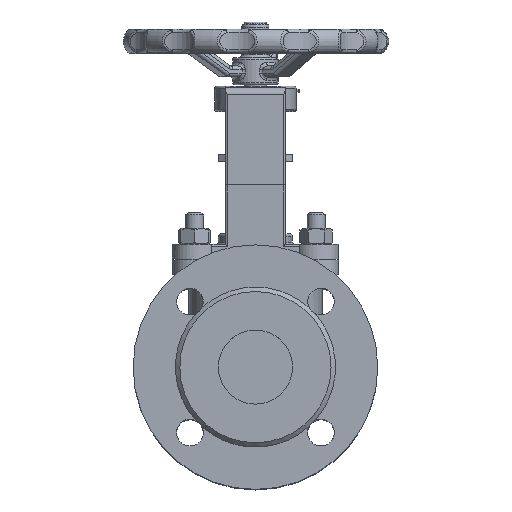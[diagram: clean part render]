
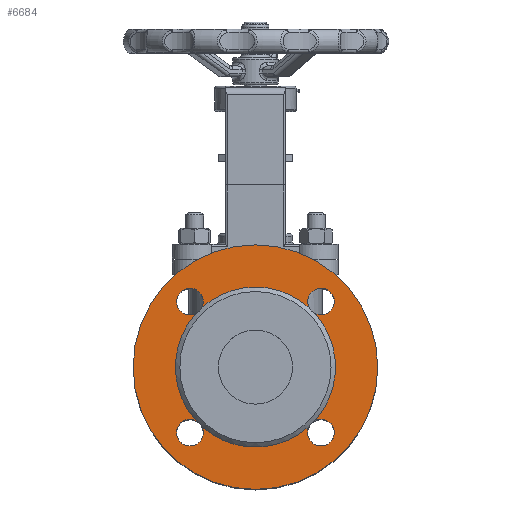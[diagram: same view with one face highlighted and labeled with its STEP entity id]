
A CAD part, top view. The second image highlights one B-rep face of the part: STEP entity #6684.
In plain terms, the highlighted planar face has unit normal (0, 0, 1).
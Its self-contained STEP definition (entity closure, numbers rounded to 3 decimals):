
#6684=ADVANCED_FACE('',(#14730,#14732),#14734,.F.);
#14730=FACE_BOUND('',#14731,.T.);
#14731=EDGE_LOOP('',(#21715));
#14732=FACE_BOUND('',#14733,.T.);
#14733=EDGE_LOOP('',(#21716,#21717,#21718,#21719,#21720,#21721,#21722,#21723,#21724,
#21725,#21726,#21727,#21728));
#14734=PLANE('',#14735);
#14735=AXIS2_PLACEMENT_3D('',#14736,#14737,#14738);
#14736=CARTESIAN_POINT('',(0.,0.,112.));
#14737=DIRECTION('',(0.,0.,-1.));
#14738=DIRECTION('',(0.,1.,0.));
#21715=ORIENTED_EDGE('',*,*,#24599,.T.);
#21716=ORIENTED_EDGE('',*,*,#24602,.T.);
#21717=ORIENTED_EDGE('',*,*,#24866,.F.);
#21718=ORIENTED_EDGE('',*,*,#24609,.T.);
#21719=ORIENTED_EDGE('',*,*,#24611,.T.);
#21720=ORIENTED_EDGE('',*,*,#24867,.F.);
#21721=ORIENTED_EDGE('',*,*,#24604,.T.);
#21722=ORIENTED_EDGE('',*,*,#24603,.T.);
#21723=ORIENTED_EDGE('',*,*,#24868,.F.);
#21724=ORIENTED_EDGE('',*,*,#24869,.F.);
#21725=ORIENTED_EDGE('',*,*,#24607,.T.);
#21726=ORIENTED_EDGE('',*,*,#24606,.T.);
#21727=ORIENTED_EDGE('',*,*,#24870,.F.);
#21728=ORIENTED_EDGE('',*,*,#24600,.T.);
#24599=EDGE_CURVE('',#28222,#28222,#28223,.T.);
#24600=EDGE_CURVE('',#28224,#28225,#28226,.T.);
#24602=EDGE_CURVE('',#28225,#28227,#28229,.T.);
#24603=EDGE_CURVE('',#28230,#28231,#28232,.T.);
#24604=EDGE_CURVE('',#28233,#28230,#28234,.T.);
#24606=EDGE_CURVE('',#28236,#28237,#28238,.T.);
#24607=EDGE_CURVE('',#28239,#28236,#28240,.T.);
#24609=EDGE_CURVE('',#28242,#28243,#28244,.T.);
#24611=EDGE_CURVE('',#28243,#28245,#28247,.T.);
#24866=EDGE_CURVE('',#28242,#28227,#28657,.T.);
#24867=EDGE_CURVE('',#28233,#28245,#28658,.T.);
#24868=EDGE_CURVE('',#28659,#28231,#28660,.T.);
#24869=EDGE_CURVE('',#28239,#28659,#28661,.T.);
#24870=EDGE_CURVE('',#28224,#28237,#28662,.T.);
#28222=VERTEX_POINT('',#56922);
#28223=CIRCLE('',#56923,82.5);
#28224=VERTEX_POINT('',#56927);
#28225=VERTEX_POINT('',#56928);
#28226=CIRCLE('',#56929,9.);
#28227=VERTEX_POINT('',#56933);
#28229=CIRCLE('',#56986,9.);
#28230=VERTEX_POINT('',#56990);
#28231=VERTEX_POINT('',#56991);
#28232=CIRCLE('',#56992,9.);
#28233=VERTEX_POINT('',#56996);
#28234=CIRCLE('',#56997,9.);
#28236=VERTEX_POINT('',#57053);
#28237=VERTEX_POINT('',#57054);
#28238=CIRCLE('',#57055,9.);
#28239=VERTEX_POINT('',#57059);
#28240=CIRCLE('',#57060,9.);
#28242=VERTEX_POINT('',#57116);
#28243=VERTEX_POINT('',#57117);
#28244=CIRCLE('',#57118,9.);
#28245=VERTEX_POINT('',#57122);
#28247=CIRCLE('',#57175,9.);
#28657=CIRCLE('',#59621,54.);
#28658=CIRCLE('',#59625,54.);
#28659=VERTEX_POINT('',#59629);
#28660=CIRCLE('',#59630,54.);
#28661=CIRCLE('',#59634,54.);
#28662=CIRCLE('',#59638,54.);
#56922=CARTESIAN_POINT('',(0.,82.5,112.));
#56923=AXIS2_PLACEMENT_3D('',#56924,#56925,#56926);
#56924=CARTESIAN_POINT('',(0.,0.,112.));
#56925=DIRECTION('',(0.,0.,1.));
#56926=DIRECTION('',(0.,1.,0.));
#56927=CARTESIAN_POINT('',(40.078,-36.191,112.));
#56928=CARTESIAN_POINT('',(44.194,-35.194,112.));
#56929=AXIS2_PLACEMENT_3D('',#56930,#56931,#56932);
#56930=CARTESIAN_POINT('',(44.194,-44.194,112.));
#56931=DIRECTION('',(0.,0.,-1.));
#56932=DIRECTION('',(-0.457,0.889,0.));
#56933=CARTESIAN_POINT('',(36.191,-40.078,112.));
#56986=AXIS2_PLACEMENT_3D('',#56987,#56988,#56989);
#56987=CARTESIAN_POINT('',(44.194,-44.194,112.));
#56988=DIRECTION('',(0.,0.,-1.));
#56989=DIRECTION('',(0.,1.,0.));
#56990=CARTESIAN_POINT('',(-44.194,35.194,112.));
#56991=CARTESIAN_POINT('',(-36.191,40.078,112.));
#56992=AXIS2_PLACEMENT_3D('',#56993,#56994,#56995);
#56993=CARTESIAN_POINT('',(-44.194,44.194,112.));
#56994=DIRECTION('',(0.,0.,-1.));
#56995=DIRECTION('',(0.,-1.,0.));
#56996=CARTESIAN_POINT('',(-40.078,36.191,112.));
#56997=AXIS2_PLACEMENT_3D('',#56998,#56999,#57000);
#56998=CARTESIAN_POINT('',(-44.194,44.194,112.));
#56999=DIRECTION('',(0.,0.,-1.));
#57000=DIRECTION('',(0.457,-0.889,0.));
#57053=CARTESIAN_POINT('',(35.194,44.194,112.));
#57054=CARTESIAN_POINT('',(40.078,36.191,112.));
#57055=AXIS2_PLACEMENT_3D('',#57056,#57057,#57058);
#57056=CARTESIAN_POINT('',(44.194,44.194,112.));
#57057=DIRECTION('',(0.,0.,-1.));
#57058=DIRECTION('',(-1.,0.,0.));
#57059=CARTESIAN_POINT('',(36.191,40.078,112.));
#57060=AXIS2_PLACEMENT_3D('',#57061,#57062,#57063);
#57061=CARTESIAN_POINT('',(44.194,44.194,112.));
#57062=DIRECTION('',(0.,0.,-1.));
#57063=DIRECTION('',(-0.889,-0.457,0.));
#57116=CARTESIAN_POINT('',(-36.191,-40.078,112.));
#57117=CARTESIAN_POINT('',(-35.194,-44.194,112.));
#57118=AXIS2_PLACEMENT_3D('',#57119,#57120,#57121);
#57119=CARTESIAN_POINT('',(-44.194,-44.194,112.));
#57120=DIRECTION('',(0.,0.,-1.));
#57121=DIRECTION('',(0.889,0.457,0.));
#57122=CARTESIAN_POINT('',(-40.078,-36.191,112.));
#57175=AXIS2_PLACEMENT_3D('',#57176,#57177,#57178);
#57176=CARTESIAN_POINT('',(-44.194,-44.194,112.));
#57177=DIRECTION('',(0.,0.,-1.));
#57178=DIRECTION('',(1.,0.,0.));
#59621=AXIS2_PLACEMENT_3D('',#59622,#59623,#59624);
#59622=CARTESIAN_POINT('',(0.,0.,112.));
#59623=DIRECTION('',(0.,0.,1.));
#59624=DIRECTION('',(-0.67,-0.742,0.));
#59625=AXIS2_PLACEMENT_3D('',#59626,#59627,#59628);
#59626=CARTESIAN_POINT('',(0.,0.,112.));
#59627=DIRECTION('',(0.,0.,1.));
#59628=DIRECTION('',(-0.742,0.67,0.));
#59629=CARTESIAN_POINT('',(0.,54.,112.));
#59630=AXIS2_PLACEMENT_3D('',#59631,#59632,#59633);
#59631=CARTESIAN_POINT('',(0.,0.,112.));
#59632=DIRECTION('',(0.,0.,1.));
#59633=DIRECTION('',(0.,1.,0.));
#59634=AXIS2_PLACEMENT_3D('',#59635,#59636,#59637);
#59635=CARTESIAN_POINT('',(0.,0.,112.));
#59636=DIRECTION('',(0.,0.,1.));
#59637=DIRECTION('',(0.67,0.742,0.));
#59638=AXIS2_PLACEMENT_3D('',#59639,#59640,#59641);
#59639=CARTESIAN_POINT('',(0.,0.,112.));
#59640=DIRECTION('',(0.,0.,1.));
#59641=DIRECTION('',(0.742,-0.67,0.));
